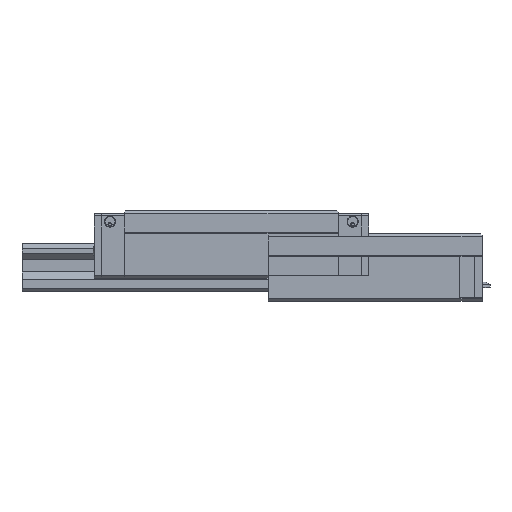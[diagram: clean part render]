
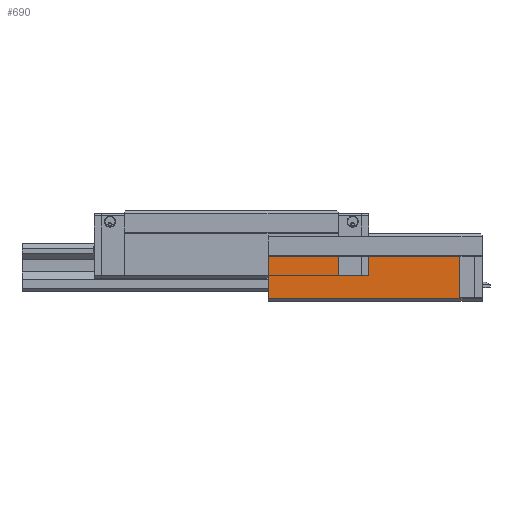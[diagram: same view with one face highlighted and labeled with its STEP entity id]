
A CAD part, left-side view. The second image highlights one B-rep face of the part: STEP entity #690.
In plain terms, the highlighted planar face has unit normal (-1, 0, 0).
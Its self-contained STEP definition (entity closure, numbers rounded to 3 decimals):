
#690 = ADVANCED_FACE( '', ( #1341 ), #1342, .T. );
#1341 = FACE_OUTER_BOUND( '', #1890, .T. );
#1342 = PLANE( '', #1891 );
#1890 = EDGE_LOOP( '', ( #3120, #3121, #3122, #3123 ) );
#1891 = AXIS2_PLACEMENT_3D( '', #3124, #3125, #3126 );
#3120 = ORIENTED_EDGE( '', *, *, #4023, .F. );
#3121 = ORIENTED_EDGE( '', *, *, #4024, .F. );
#3122 = ORIENTED_EDGE( '', *, *, #3996, .T. );
#3123 = ORIENTED_EDGE( '', *, *, #4004, .T. );
#3124 = CARTESIAN_POINT( '', ( -21.6, 74.4, -10.8 ) );
#3125 = DIRECTION( '', ( -1., 0., 0. ) );
#3126 = DIRECTION( '', ( 0., 0., 1. ) );
#3996 = EDGE_CURVE( '', #4706, #4704, #4707, .T. );
#4004 = EDGE_CURVE( '', #4704, #4719, #4721, .T. );
#4023 = EDGE_CURVE( '', #4753, #4719, #4754, .T. );
#4024 = EDGE_CURVE( '', #4706, #4753, #4755, .T. );
#4704 = VERTEX_POINT( '', #5607 );
#4706 = VERTEX_POINT( '', #5610 );
#4707 = LINE( '', #5611, #5612 );
#4719 = VERTEX_POINT( '', #5630 );
#4721 = LINE( '', #5633, #5634 );
#4753 = VERTEX_POINT( '', #5679 );
#4754 = LINE( '', #5680, #5681 );
#4755 = LINE( '', #5682, #5683 );
#5607 = CARTESIAN_POINT( '', ( -21.6, 74.4, -10.8 ) );
#5610 = CARTESIAN_POINT( '', ( -21.6, 74.4, 3.9 ) );
#5611 = CARTESIAN_POINT( '', ( -21.6, 74.4, -10.8 ) );
#5612 = VECTOR( '', #6262, 1000. );
#5630 = CARTESIAN_POINT( '', ( -21.6, 0., -10.8 ) );
#5633 = CARTESIAN_POINT( '', ( -21.6, 74.4, -10.8 ) );
#5634 = VECTOR( '', #6270, 1000. );
#5679 = CARTESIAN_POINT( '', ( -21.6, 0., 3.9 ) );
#5680 = CARTESIAN_POINT( '', ( -21.6, 0., -10.8 ) );
#5681 = VECTOR( '', #6299, 1000. );
#5682 = CARTESIAN_POINT( '', ( -21.6, 74.4, 3.9 ) );
#5683 = VECTOR( '', #6300, 1000. );
#6262 = DIRECTION( '', ( 0., 0., -1. ) );
#6270 = DIRECTION( '', ( 0., -1., 0. ) );
#6299 = DIRECTION( '', ( 0., 0., -1. ) );
#6300 = DIRECTION( '', ( 0., -1., 0. ) );
